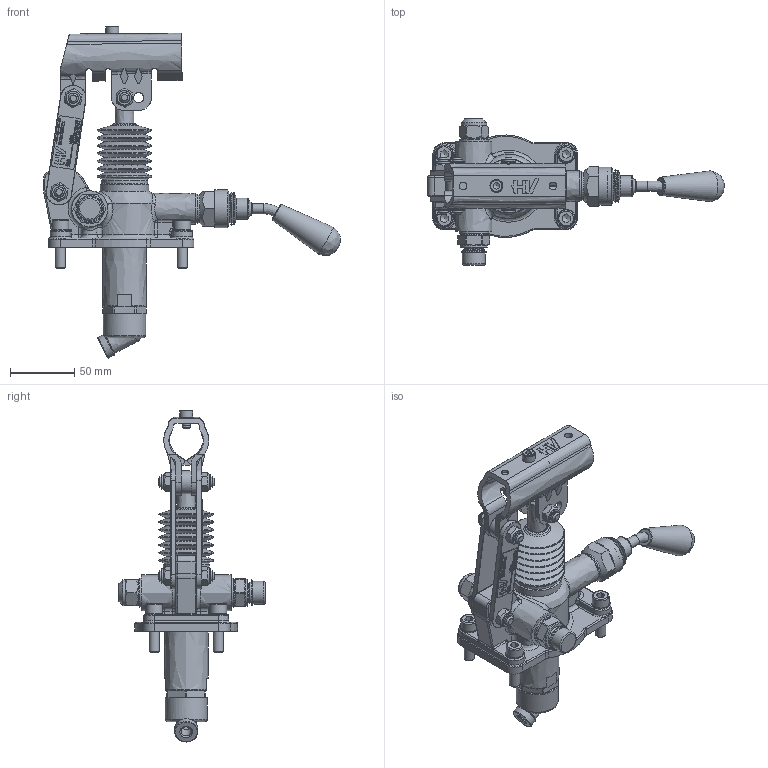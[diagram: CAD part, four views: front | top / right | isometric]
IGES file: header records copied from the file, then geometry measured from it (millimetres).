
Global section: file name: No Iges File Name specified; native system: Autodesk Inventor 2013; preprocessor: AutoDesk Inventor Iges Exporter R2013; author: christian.scardovi; date: 20240228.074435; units: millimetre
Bounding box: 231.27 x 114 x 258.81 mm (x, y, z)
Volume: 412626.2 mm3; surface area: 126056.5 mm2
Topology: 3 solids, 3 shells, 1505 faces, 3749 edges, 2356 vertices
Faces by surface type: bspline 1505
